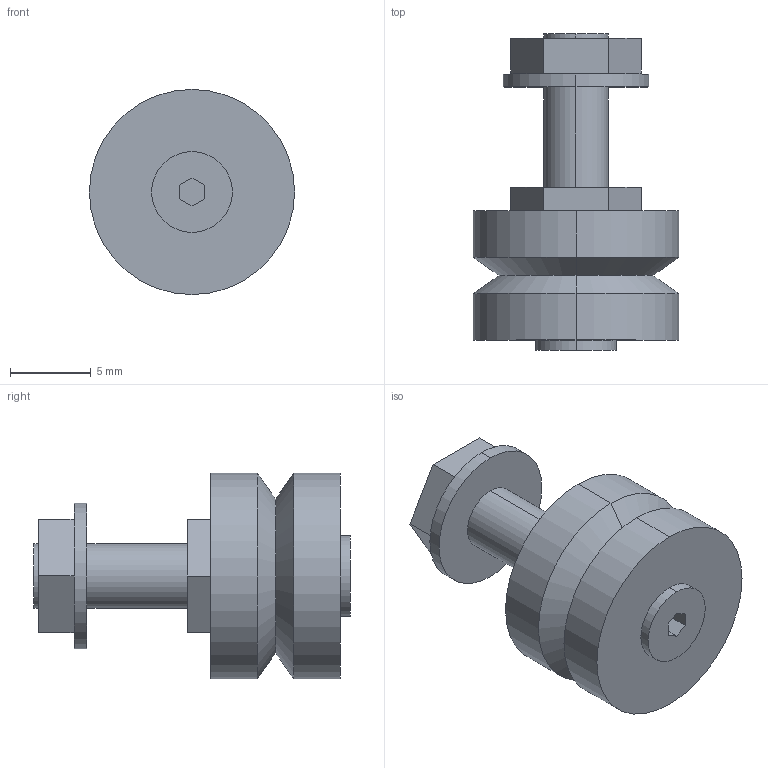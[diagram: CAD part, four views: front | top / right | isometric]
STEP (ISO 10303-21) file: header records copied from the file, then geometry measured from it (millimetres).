
FILE_DESCRIPTION(('STEP AP203'),'1');
FILE_NAME('rlj_13_c_ns.stp','2021-01-15T12:31:15',('TraceParts'),('TraceParts S.A.'),'Spatial InterOp 3D',' ',' ');
FILE_SCHEMA(('CONFIG_CONTROL_DESIGN'));
Length unit declared in the file: millimetre
Products named in the file (1): 1
Bounding box: 12.7 x 19.6 x 12.7 mm (x, y, z)
Volume: 1245.1 mm3; surface area: 935 mm2
Topology: 1 solids, 1 shells, 43 faces, 96 edges, 62 vertices
Faces by surface type: plane 27, cylinder 12, cone 4
Entity records: 1232 total; most frequent: DIRECTION 210, CARTESIAN_POINT 202, ORIENTED_EDGE 192, EDGE_CURVE 96, AXIS2_PLACEMENT_3D 70, LINE 70, VECTOR 70, VERTEX_POINT 62
